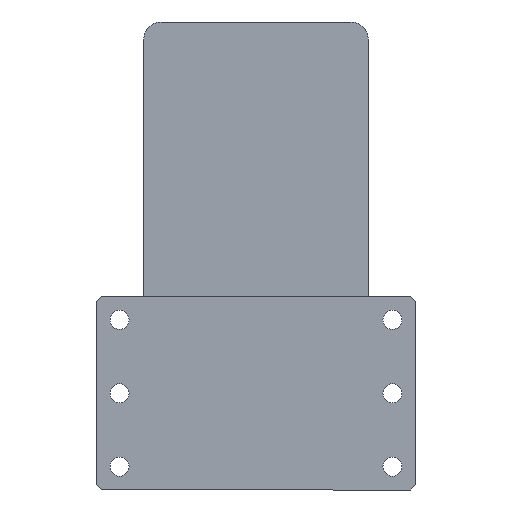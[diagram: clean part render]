
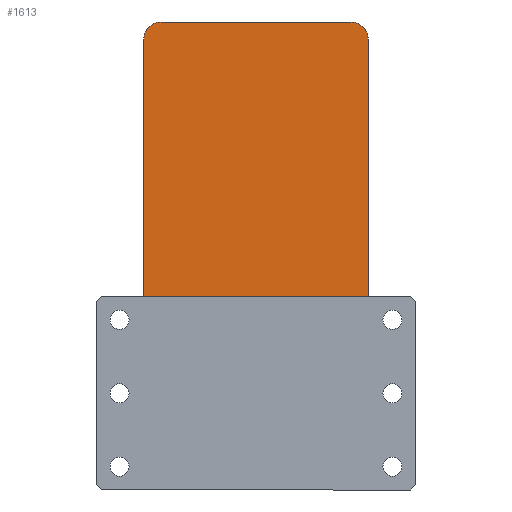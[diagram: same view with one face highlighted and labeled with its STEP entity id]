
A CAD part, left-side view. The second image highlights one B-rep face of the part: STEP entity #1613.
In plain terms, the highlighted planar face has unit normal (-1, 0, 0) as drawn and (0, 0, 1) by its records, which use the part's own axes.
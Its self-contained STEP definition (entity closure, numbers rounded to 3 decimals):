
#34 = CARTESIAN_POINT ( 'NONE',  ( -55., 135., 105. ) ) ;
#512 = ORIENTED_EDGE ( 'NONE', *, *, #6501, .T. ) ;
#541 = DIRECTION ( 'NONE',  ( 1., 0., 0. ) ) ;
#557 = ORIENTED_EDGE ( 'NONE', *, *, #7315, .T. ) ;
#572 = DIRECTION ( 'NONE',  ( 0., 0., 1. ) ) ;
#586 = CARTESIAN_POINT ( 'NONE',  ( -55., 125., 105. ) ) ;
#607 = ORIENTED_EDGE ( 'NONE', *, *, #5921, .T. ) ;
#636 = ORIENTED_EDGE ( 'NONE', *, *, #7215, .T. ) ;
#679 = ORIENTED_EDGE ( 'NONE', *, *, #6789, .T. ) ;
#817 = ORIENTED_EDGE ( 'NONE', *, *, #6452, .T. ) ;
#829 = VERTEX_POINT ( 'NONE', #4468 ) ;
#942 = CARTESIAN_POINT ( 'NONE',  ( 65., 125., 105. ) ) ;
#962 = CIRCLE ( 'NONE', #8239, 10. ) ;
#1613 = ADVANCED_FACE ( 'NONE', ( #1617 ), #8804, .T. ) ;
#1617 = FACE_OUTER_BOUND ( 'NONE', #4464, .T. ) ;
#1848 = AXIS2_PLACEMENT_3D ( 'NONE', #586, #572, #541 ) ;
#2404 = DIRECTION ( 'NONE',  ( -1., 0., 0. ) ) ;
#2415 = CIRCLE ( 'NONE', #4164, 10. ) ;
#2583 = CARTESIAN_POINT ( 'NONE',  ( -65., 135., 105. ) ) ;
#2589 = DIRECTION ( 'NONE',  ( 1., 0., 0. ) ) ;
#2603 = CARTESIAN_POINT ( 'NONE',  ( 55., 135., 105. ) ) ;
#2676 = DIRECTION ( 'NONE',  ( 0., 0., 1. ) ) ;
#2716 = CARTESIAN_POINT ( 'NONE',  ( 55., 125., 105. ) ) ;
#2977 = VERTEX_POINT ( 'NONE', #2603 ) ;
#3639 = DIRECTION ( 'NONE',  ( 1., 0., 0. ) ) ;
#3649 = VERTEX_POINT ( 'NONE', #9686 ) ;
#3651 = DIRECTION ( 'NONE',  ( 0., 0., 1. ) ) ;
#3738 = CARTESIAN_POINT ( 'NONE',  ( 0., 0., 105. ) ) ;
#3838 = VERTEX_POINT ( 'NONE', #8458 ) ;
#3894 = DIRECTION ( 'NONE',  ( 1., 0., 0. ) ) ;
#3919 = DIRECTION ( 'NONE',  ( 0., 0., 1. ) ) ;
#3935 = CARTESIAN_POINT ( 'NONE',  ( 55., -125., 105. ) ) ;
#4013 = VERTEX_POINT ( 'NONE', #7361 ) ;
#4076 = VECTOR ( 'NONE', #2404, 1000. ) ;
#4086 = LINE ( 'NONE', #2583, #4076 ) ;
#4164 = AXIS2_PLACEMENT_3D ( 'NONE', #3935, #3919, #3894 ) ;
#4464 = EDGE_LOOP ( 'NONE', ( #817, #7198, #679, #636, #607, #557, #512, #7067 ) ) ;
#4468 = CARTESIAN_POINT ( 'NONE',  ( -55., -135., 105. ) ) ;
#5271 = AXIS2_PLACEMENT_3D ( 'NONE', #11189, #10447, #10792 ) ;
#5921 = EDGE_CURVE ( 'NONE', #2977, #7390, #4086, .T. ) ;
#6037 = VERTEX_POINT ( 'NONE', #942 ) ;
#6452 = EDGE_CURVE ( 'NONE', #829, #3649, #11718, .T. ) ;
#6501 = EDGE_CURVE ( 'NONE', #6701, #3838, #7522, .T. ) ;
#6701 = VERTEX_POINT ( 'NONE', #10030 ) ;
#6789 = EDGE_CURVE ( 'NONE', #4013, #6037, #9910, .T. ) ;
#6849 = DIRECTION ( 'NONE',  ( 1., 0., 0. ) ) ;
#7067 = ORIENTED_EDGE ( 'NONE', *, *, #7385, .T. ) ;
#7136 = EDGE_CURVE ( 'NONE', #3649, #4013, #2415, .T. ) ;
#7198 = ORIENTED_EDGE ( 'NONE', *, *, #7136, .T. ) ;
#7215 = EDGE_CURVE ( 'NONE', #6037, #2977, #962, .T. ) ;
#7315 = EDGE_CURVE ( 'NONE', #7390, #6701, #11330, .T. ) ;
#7361 = CARTESIAN_POINT ( 'NONE',  ( 65., -125., 105. ) ) ;
#7385 = EDGE_CURVE ( 'NONE', #3838, #829, #10751, .T. ) ;
#7390 = VERTEX_POINT ( 'NONE', #34 ) ;
#7522 = LINE ( 'NONE', #8707, #9591 ) ;
#7664 = CARTESIAN_POINT ( 'NONE',  ( -65., -135., 105. ) ) ;
#8239 = AXIS2_PLACEMENT_3D ( 'NONE', #2716, #2676, #2589 ) ;
#8458 = CARTESIAN_POINT ( 'NONE',  ( -65., -125., 105. ) ) ;
#8707 = CARTESIAN_POINT ( 'NONE',  ( -65., 135., 105. ) ) ;
#8804 = PLANE ( 'NONE',  #8915 ) ;
#8880 = DIRECTION ( 'NONE',  ( 0., -1., 0. ) ) ;
#8915 = AXIS2_PLACEMENT_3D ( 'NONE', #3738, #3651, #3639 ) ;
#9254 = VECTOR ( 'NONE', #6849, 1000. ) ;
#9326 = CARTESIAN_POINT ( 'NONE',  ( 65., 135., 105. ) ) ;
#9346 = DIRECTION ( 'NONE',  ( 0., 1., 0. ) ) ;
#9591 = VECTOR ( 'NONE', #8880, 1000. ) ;
#9686 = CARTESIAN_POINT ( 'NONE',  ( 55., -135., 105. ) ) ;
#9910 = LINE ( 'NONE', #9326, #10015 ) ;
#10015 = VECTOR ( 'NONE', #9346, 1000. ) ;
#10030 = CARTESIAN_POINT ( 'NONE',  ( -65., 125., 105. ) ) ;
#10447 = DIRECTION ( 'NONE',  ( 0., 0., 1. ) ) ;
#10751 = CIRCLE ( 'NONE', #5271, 10. ) ;
#10792 = DIRECTION ( 'NONE',  ( 1., 0., 0. ) ) ;
#11189 = CARTESIAN_POINT ( 'NONE',  ( -55., -125., 105. ) ) ;
#11330 = CIRCLE ( 'NONE', #1848, 10. ) ;
#11718 = LINE ( 'NONE', #7664, #9254 ) ;
